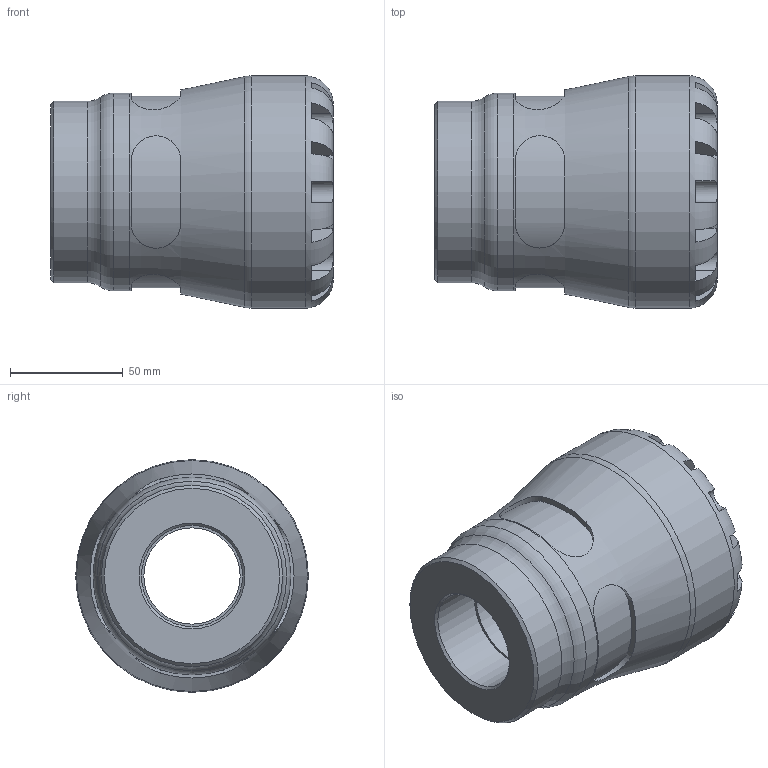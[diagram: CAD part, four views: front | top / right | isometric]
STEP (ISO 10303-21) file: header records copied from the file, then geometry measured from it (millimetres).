
FILE_DESCRIPTION(/* description */ ('PLASSON FEMALE ADAPTOR 63X1.1/2" SERIES 1'),/* implementation_level */ '2;1');
FILE_NAME(/* name */ 'C:\Dropbox\KIMPROJECTS-Inventor\99-16-3568-Processing\1003\100300063015_190300063015.ipt.step',/* time_stamp */ '2017-01-22T09:49:30+02:00',/* author */ ('KIM'),/* organization */ (''),/* preprocessor_version */ 'ST-DEVELOPER v15.6',/* originating_system */ 'Autodesk Inventor 2015',/* authorisation */ '');
FILE_SCHEMA (('AUTOMOTIVE_DESIGN { 1 0 10303 214 3 1 1 }'));
Length unit declared in the file: millimetre
Products named in the file (1): 100300063015_190300063015
Bounding box: 125 x 103 x 103 mm (x, y, z)
Volume: 494801.9 mm3; surface area: 71958.1 mm2
Topology: 1 solids, 1 shells, 104 faces, 255 edges, 159 vertices
Faces by surface type: plane 61, cylinder 35, torus 5, cone 3
Full cylindrical faces by diameter (mm): 42.603 x1, 44.845 x1, 52.5 x1, 63 x1, 80.34 x1, 87.55 x1, 103 x1
Entity records: 3918 total; most frequent: CARTESIAN_POINT 1479, DIRECTION 472, ORIENTED_EDGE 470, EDGE_CURVE 235, AXIS2_PLACEMENT_3D 196, VERTEX_POINT 155, EDGE_LOOP 128, STYLED_ITEM 105
